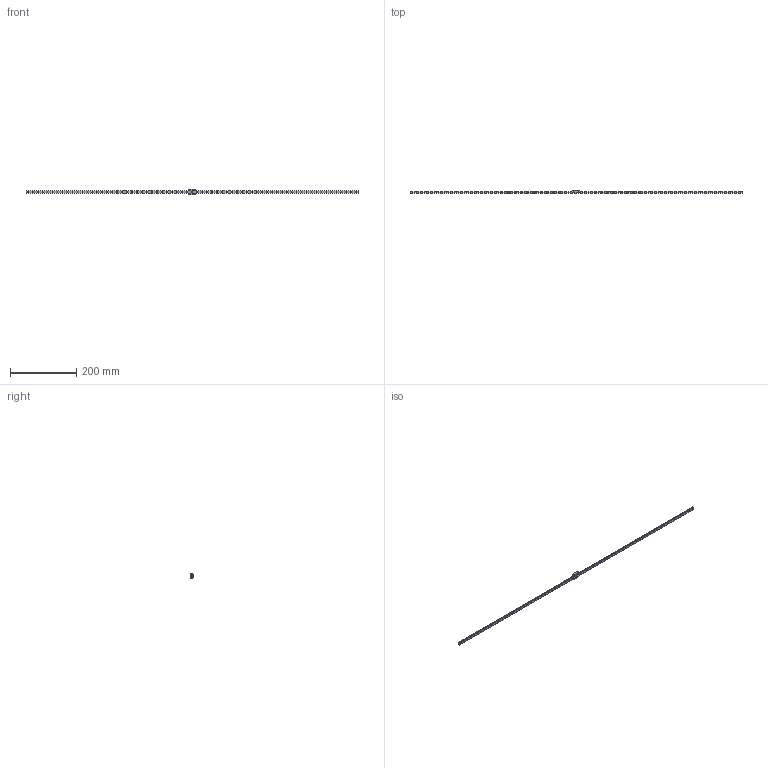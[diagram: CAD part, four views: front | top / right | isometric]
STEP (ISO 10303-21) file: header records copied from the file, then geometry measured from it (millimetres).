
FILE_DESCRIPTION((''),'2;1');
FILE_NAME('BMHS7-U01Z0-1000-D0_1_ASM_1_ASM','2020-11-25T10:55:09',('TWVS2025'),(''),'CREO PARAMETRIC BY PTC INC, 2018420','CREO PARAMETRIC BY PTC INC, 2018420','');
FILE_SCHEMA(('CONFIG_CONTROL_DESIGN'));
Length unit declared in the file: millimetre
Products named in the file (3): IR-BMH7-1000_1; BC-BMHC7-U0S-Z0_1; BMHS7-U01Z0-1000-D0_1_ASM_1_ASM
Assembly tree (2 placements, depth 2):
  BMHS7-U01Z0-1000-D0_1_ASM_1_ASM
    IR-BMH7-1000_1
    BC-BMHC7-U0S-Z0_1
Bounding box: 1000 x 8 x 17 mm (x, y, z)
Volume: 30846.1 mm3; surface area: 28650 mm2
Topology: 2 solids, 6 shells, 925 faces, 2443 edges, 1555 vertices
Faces by surface type: cylinder 406, plane 305, cone 150, sphere 48, torus 16
Entity records: 30392 total; most frequent: CARTESIAN_POINT 6488, DIRECTION 5278, ORIENTED_EDGE 4798, EDGE_CURVE 2399, AXIS2_PLACEMENT_3D 2085, VERTEX_POINT 1555, EDGE_LOOP 1172, CIRCLE 1155
